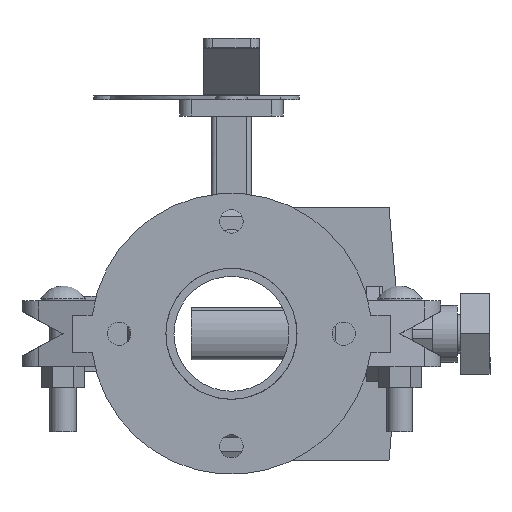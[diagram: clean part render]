
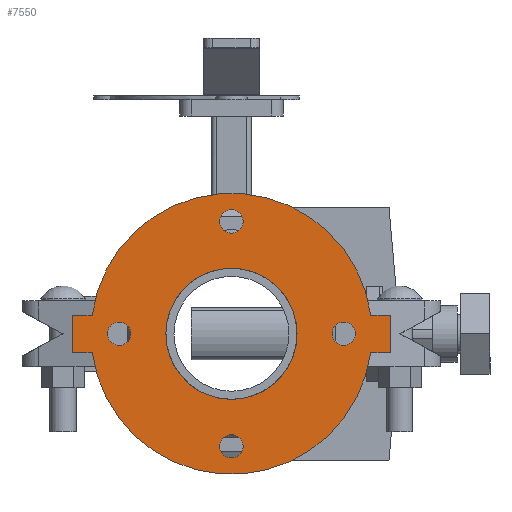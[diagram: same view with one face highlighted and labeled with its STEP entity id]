
A CAD part, front view. The second image highlights one B-rep face of the part: STEP entity #7550.
In plain terms, the highlighted planar face has unit normal (0, -1, 0) as drawn and (0, 0, -1) by its records, which use the part's own axes.
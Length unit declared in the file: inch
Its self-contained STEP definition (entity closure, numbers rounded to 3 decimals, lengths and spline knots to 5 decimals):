
#171=FACE_BOUND('',#932,.T.);
#172=FACE_BOUND('',#933,.T.);
#173=FACE_BOUND('',#934,.T.);
#174=FACE_BOUND('',#935,.T.);
#175=FACE_BOUND('',#936,.T.);
#264=PLANE('',#8177);
#512=FACE_OUTER_BOUND('',#931,.T.);
#931=EDGE_LOOP('',(#4836,#4837,#4838,#4839,#4840,#4841,#4842,#4843));
#932=EDGE_LOOP('',(#4844));
#933=EDGE_LOOP('',(#4845));
#934=EDGE_LOOP('',(#4846));
#935=EDGE_LOOP('',(#4847));
#936=EDGE_LOOP('',(#4848,#4849));
#1443=LINE('',#11453,#2017);
#1444=LINE('',#11455,#2018);
#1445=LINE('',#11457,#2019);
#1446=LINE('',#11461,#2020);
#1447=LINE('',#11463,#2021);
#1448=LINE('',#11464,#2022);
#2017=VECTOR('',#9094,0.3937);
#2018=VECTOR('',#9095,0.3937);
#2019=VECTOR('',#9096,0.3937);
#2020=VECTOR('',#9099,0.3937);
#2021=VECTOR('',#9100,0.3937);
#2022=VECTOR('',#9101,0.3937);
#2588=CIRCLE('',#8167,0.3125);
#2590=CIRCLE('',#8170,0.3125);
#2592=CIRCLE('',#8173,0.3125);
#2594=CIRCLE('',#8176,0.3125);
#2595=CIRCLE('',#8178,3.75);
#2596=CIRCLE('',#8179,3.75);
#2597=CIRCLE('',#8180,1.75);
#2598=CIRCLE('',#8181,1.75);
#3021=VERTEX_POINT('',#11427);
#3023=VERTEX_POINT('',#11433);
#3025=VERTEX_POINT('',#11439);
#3027=VERTEX_POINT('',#11445);
#3028=VERTEX_POINT('',#11449);
#3029=VERTEX_POINT('',#11450);
#3030=VERTEX_POINT('',#11452);
#3031=VERTEX_POINT('',#11454);
#3032=VERTEX_POINT('',#11456);
#3033=VERTEX_POINT('',#11458);
#3034=VERTEX_POINT('',#11460);
#3035=VERTEX_POINT('',#11462);
#3036=VERTEX_POINT('',#11465);
#3037=VERTEX_POINT('',#11466);
#3747=EDGE_CURVE('',#3021,#3021,#2588,.T.);
#3750=EDGE_CURVE('',#3023,#3023,#2590,.T.);
#3753=EDGE_CURVE('',#3025,#3025,#2592,.T.);
#3756=EDGE_CURVE('',#3027,#3027,#2594,.T.);
#3757=EDGE_CURVE('',#3028,#3029,#2595,.T.);
#3758=EDGE_CURVE('',#3029,#3030,#1443,.T.);
#3759=EDGE_CURVE('',#3030,#3031,#1444,.T.);
#3760=EDGE_CURVE('',#3031,#3032,#1445,.T.);
#3761=EDGE_CURVE('',#3032,#3033,#2596,.T.);
#3762=EDGE_CURVE('',#3033,#3034,#1446,.T.);
#3763=EDGE_CURVE('',#3034,#3035,#1447,.T.);
#3764=EDGE_CURVE('',#3035,#3028,#1448,.T.);
#3765=EDGE_CURVE('',#3036,#3037,#2597,.T.);
#3766=EDGE_CURVE('',#3037,#3036,#2598,.T.);
#4836=ORIENTED_EDGE('',*,*,#3757,.T.);
#4837=ORIENTED_EDGE('',*,*,#3758,.T.);
#4838=ORIENTED_EDGE('',*,*,#3759,.T.);
#4839=ORIENTED_EDGE('',*,*,#3760,.T.);
#4840=ORIENTED_EDGE('',*,*,#3761,.T.);
#4841=ORIENTED_EDGE('',*,*,#3762,.T.);
#4842=ORIENTED_EDGE('',*,*,#3763,.T.);
#4843=ORIENTED_EDGE('',*,*,#3764,.T.);
#4844=ORIENTED_EDGE('',*,*,#3747,.T.);
#4845=ORIENTED_EDGE('',*,*,#3750,.T.);
#4846=ORIENTED_EDGE('',*,*,#3753,.T.);
#4847=ORIENTED_EDGE('',*,*,#3756,.T.);
#4848=ORIENTED_EDGE('',*,*,#3765,.T.);
#4849=ORIENTED_EDGE('',*,*,#3766,.T.);
#7550=ADVANCED_FACE('',(#512,#171,#172,#173,#174,#175),#264,.T.);
#8167=AXIS2_PLACEMENT_3D('',#11429,#9067,#9068);
#8170=AXIS2_PLACEMENT_3D('',#11435,#9074,#9075);
#8173=AXIS2_PLACEMENT_3D('',#11441,#9081,#9082);
#8176=AXIS2_PLACEMENT_3D('',#11447,#9088,#9089);
#8177=AXIS2_PLACEMENT_3D('',#11448,#9090,#9091);
#8178=AXIS2_PLACEMENT_3D('',#11451,#9092,#9093);
#8179=AXIS2_PLACEMENT_3D('',#11459,#9097,#9098);
#8180=AXIS2_PLACEMENT_3D('',#11467,#9102,#9103);
#8181=AXIS2_PLACEMENT_3D('',#11468,#9104,#9105);
#9067=DIRECTION('center_axis',(0.,0.,1.));
#9068=DIRECTION('ref_axis',(0.,1.,0.));
#9074=DIRECTION('center_axis',(0.,0.,1.));
#9075=DIRECTION('ref_axis',(1.,0.,0.));
#9081=DIRECTION('center_axis',(0.,0.,1.));
#9082=DIRECTION('ref_axis',(0.,-1.,0.));
#9088=DIRECTION('center_axis',(0.,0.,1.));
#9089=DIRECTION('ref_axis',(-1.,0.,0.));
#9090=DIRECTION('center_axis',(0.,0.,-1.));
#9091=DIRECTION('ref_axis',(-1.,0.,0.));
#9092=DIRECTION('center_axis',(0.,0.,-1.));
#9093=DIRECTION('ref_axis',(-1.,0.,0.));
#9094=DIRECTION('',(0.,1.,0.));
#9095=DIRECTION('',(1.,0.,0.));
#9096=DIRECTION('',(0.,-1.,0.));
#9097=DIRECTION('center_axis',(0.,0.,-1.));
#9098=DIRECTION('ref_axis',(-1.,0.,0.));
#9099=DIRECTION('',(0.,-1.,0.));
#9100=DIRECTION('',(-1.,0.,0.));
#9101=DIRECTION('',(0.,1.,0.));
#9102=DIRECTION('center_axis',(0.,0.,1.));
#9103=DIRECTION('ref_axis',(-1.,0.,0.));
#9104=DIRECTION('center_axis',(0.,0.,1.));
#9105=DIRECTION('ref_axis',(-1.,0.,0.));
#11427=CARTESIAN_POINT('',(0.,2.6875,-0.5));
#11429=CARTESIAN_POINT('Origin',(0.,3.,-0.5));
#11433=CARTESIAN_POINT('',(2.6875,0.,-0.5));
#11435=CARTESIAN_POINT('Origin',(3.,0.,-0.5));
#11439=CARTESIAN_POINT('',(0.,-2.6875,-0.5));
#11441=CARTESIAN_POINT('Origin',(0.,-3.,-0.5));
#11445=CARTESIAN_POINT('',(-2.6875,0.,-0.5));
#11447=CARTESIAN_POINT('Origin',(-3.,0.,-0.5));
#11448=CARTESIAN_POINT('Origin',(0.,0.,-0.5));
#11449=CARTESIAN_POINT('',(-0.5,-3.71652,-0.5));
#11450=CARTESIAN_POINT('',(-0.5,3.71652,-0.5));
#11451=CARTESIAN_POINT('Origin',(0.,0.,-0.5));
#11452=CARTESIAN_POINT('',(-0.5,4.25,-0.5));
#11453=CARTESIAN_POINT('',(-0.5,-4.25,-0.5));
#11454=CARTESIAN_POINT('',(0.5,4.25,-0.5));
#11455=CARTESIAN_POINT('',(-0.5,4.25,-0.5));
#11456=CARTESIAN_POINT('',(0.5,3.71652,-0.5));
#11457=CARTESIAN_POINT('',(0.5,4.25,-0.5));
#11458=CARTESIAN_POINT('',(0.5,-3.71652,-0.5));
#11459=CARTESIAN_POINT('Origin',(0.,0.,-0.5));
#11460=CARTESIAN_POINT('',(0.5,-4.25,-0.5));
#11461=CARTESIAN_POINT('',(0.5,4.25,-0.5));
#11462=CARTESIAN_POINT('',(-0.5,-4.25,-0.5));
#11463=CARTESIAN_POINT('',(0.5,-4.25,-0.5));
#11464=CARTESIAN_POINT('',(-0.5,-4.25,-0.5));
#11465=CARTESIAN_POINT('',(0.5,1.67705,-0.5));
#11466=CARTESIAN_POINT('',(1.75,0.,-0.5));
#11467=CARTESIAN_POINT('Origin',(0.,0.,-0.5));
#11468=CARTESIAN_POINT('Origin',(0.,0.,-0.5));
